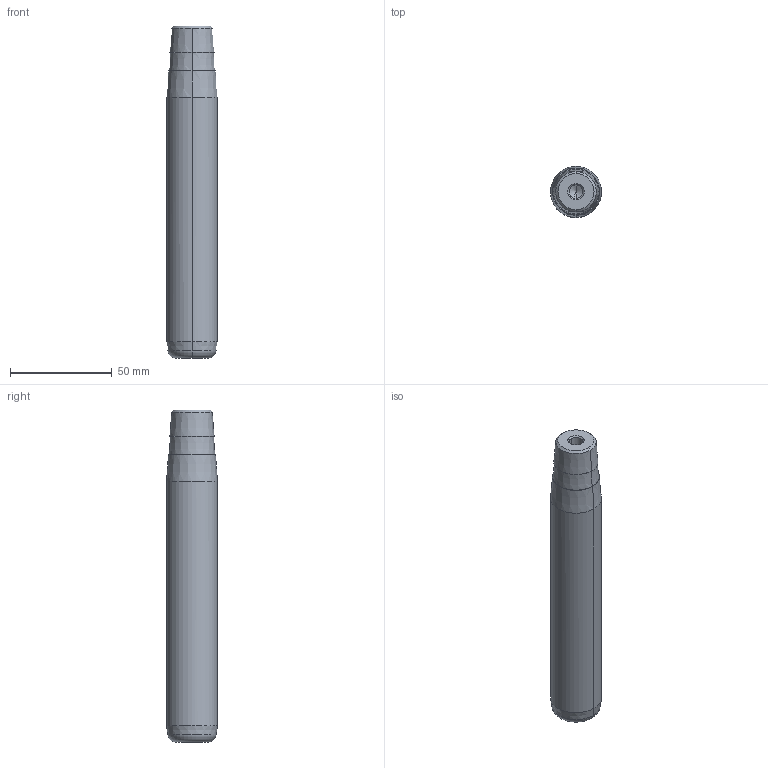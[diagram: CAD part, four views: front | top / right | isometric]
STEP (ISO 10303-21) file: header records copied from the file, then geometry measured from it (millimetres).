
FILE_DESCRIPTION(('CATIA V5 STEP Exchange'),'2;1');
FILE_NAME('C:\Users\Utente\Desktop\IO LAVORO\3D X SITO CF\X SITO\722\722-25x140x163.stp','2021-01-09T08:06:11+00:00',('none'),('none'),'CATIA Version 5 Release 20 GA (IN-10)','CATIA V5 STEP AP203','none');
FILE_SCHEMA(('CONFIG_CONTROL_DESIGN'));
Length unit declared in the file: millimetre
Products named in the file (1): 722-25x140x163
Bounding box: 25 x 25 x 163 mm (x, y, z)
Volume: 74072.1 mm3; surface area: 14188.5 mm2
Topology: 1 solids, 1 shells, 32 faces, 98 edges, 66 vertices
Faces by surface type: cone 22, cylinder 6, plane 2, torus 2
Entity records: 1166 total; most frequent: CARTESIAN_POINT 279, ORIENTED_EDGE 188, DIRECTION 148, EDGE_CURVE 94, AXIS2_PLACEMENT_3D 89, VERTEX_POINT 66, CIRCLE 56, EDGE_LOOP 34
